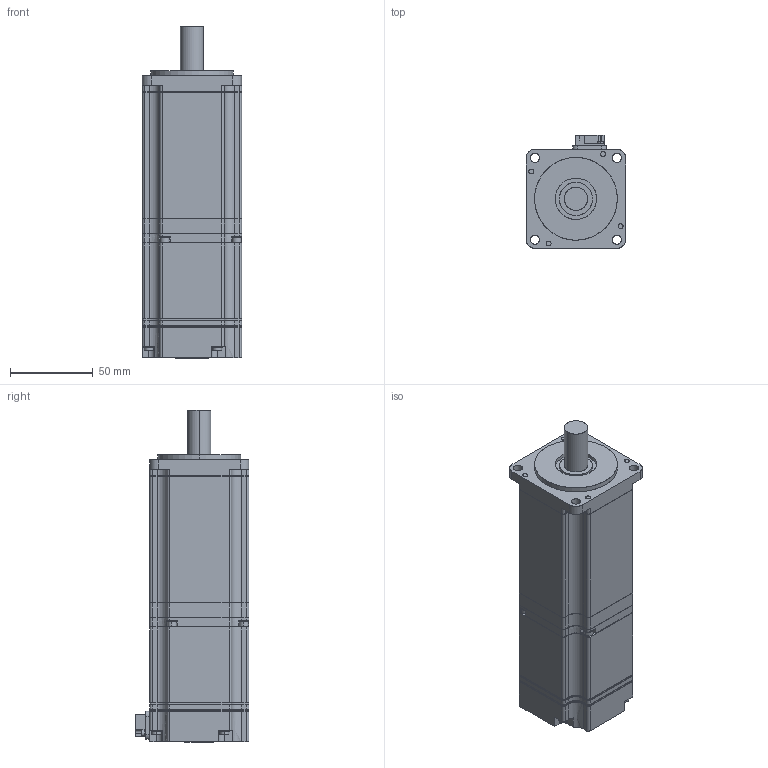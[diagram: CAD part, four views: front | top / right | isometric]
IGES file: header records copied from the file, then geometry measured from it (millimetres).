
Start section: SolidWorks IGES file using analytic representation for surfaces
Global section: file name: D:\YASKAWA\sgmjv_06a_a2c.IGS; native system: SolidWorks 2006 by SolidWorks Corporation; preprocessor: SolidWorks 2006 by SolidWorks Corporation; author: yamanouchi; date: 110705.102047; units: millimetre
Bounding box: 60.1 x 68.8 x 200.6 mm (x, y, z)
Surface area: 52939.6 mm2 (no closed solid volume)
Topology: 0 solids, 0 shells, 634 faces, 8248 edges, 8248 vertices
Faces by surface type: bspline 344, revolution 290
